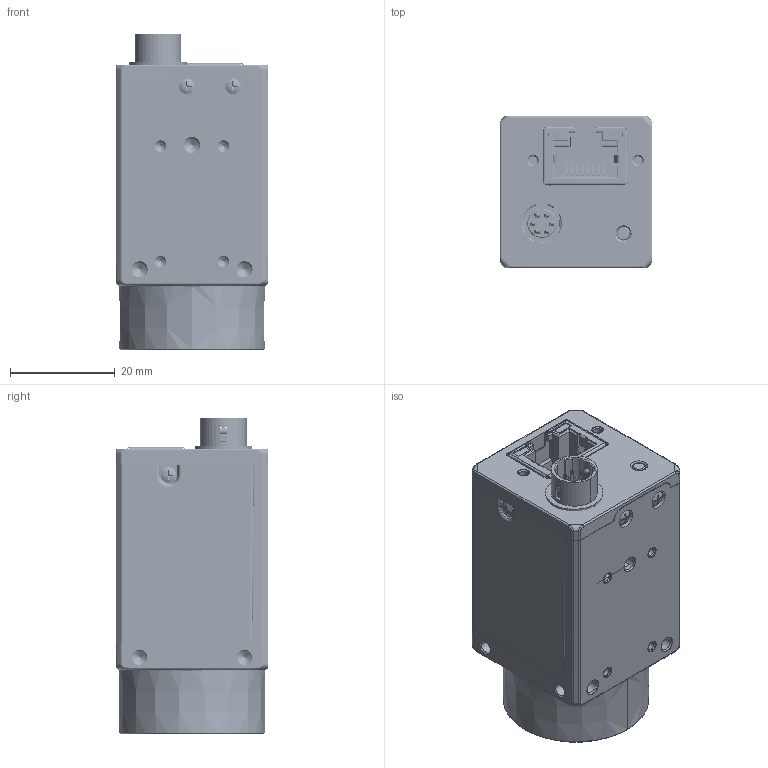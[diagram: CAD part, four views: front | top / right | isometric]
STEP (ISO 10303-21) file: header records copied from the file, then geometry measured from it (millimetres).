
FILE_DESCRIPTION((''),'2;1');
FILE_NAME('MV-CS050-60GMGC_ASM','2023-03-22T11:14:49',('xueqinyuan'),(''),'CREO PARAMETRIC BY PTC INC, 2020044','CREO PARAMETRIC BY PTC INC, 2020044','');
FILE_SCHEMA(('CONFIG_CONTROL_DESIGN'));
Products named in the file (2): _MV-CS050-60GMGC; MV-CS050-60GMGC_ASM
Assembly tree (1 placements, depth 2):
  MV-CS050-60GMGC_ASM
    _MV-CS050-60GMGC
Bounding box: 29.03 x 29 x 60.41 mm (x, y, z)
Volume: 2573.9 mm3; surface area: 30829.6 mm2
Topology: 11 solids, 100 shells, 5946 faces, 16789 edges, 10771 vertices
Faces by surface type: plane 2937, cylinder 1837, bspline 619, torus 220, cone 196, extrusion 94, sphere 43
Entity records: 242044 total; most frequent: CARTESIAN_POINT 95255, ORIENTED_EDGE 32592, DIRECTION 27468, EDGE_CURVE 16725, VERTEX_POINT 10772, VECTOR 9300, LINE 9206, AXIS2_PLACEMENT_3D 9084
